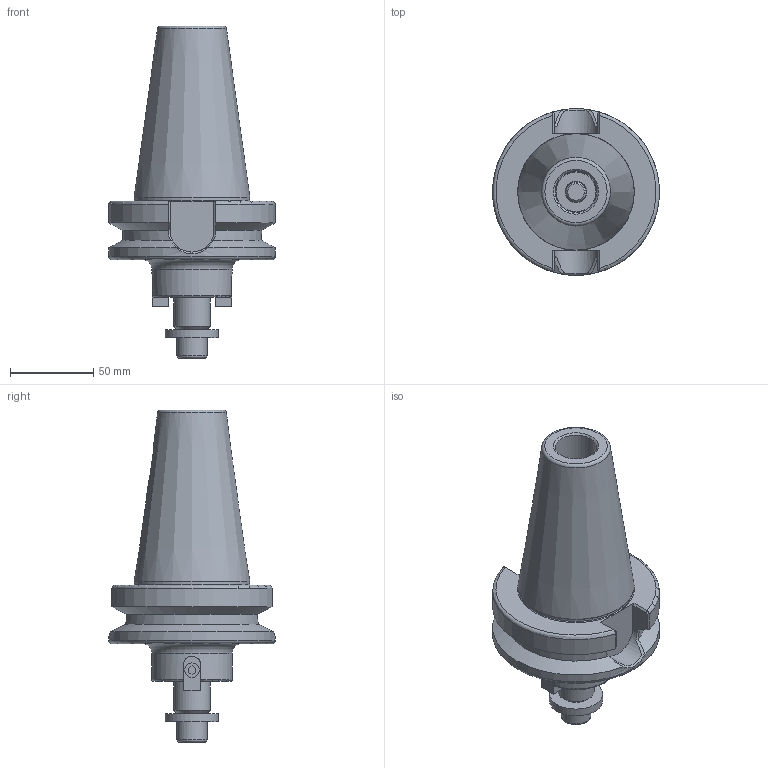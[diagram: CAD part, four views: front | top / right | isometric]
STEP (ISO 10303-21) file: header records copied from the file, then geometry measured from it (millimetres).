
FILE_DESCRIPTION(/* description */ (''),/* implementation_level */ '2;1');
FILE_NAME(/* name */ 'Z:\Проектный отдел\Алена\Оправка фрезерная (патрон) BT50-FMB27-60\BT50-FMB27-60.stp',/* time_stamp */ '2024-01-26T14:48:17+03:00',/* author */ ('User'),/* organization */ (''),/* preprocessor_version */ 'ST-DEVELOPER v18',/* originating_system */ 'Autodesk Inventor 2020',/* authorisation */ '');
FILE_SCHEMA (('AUTOMOTIVE_DESIGN { 1 0 10303 214 3 1 1 }'));
Length unit declared in the file: millimetre
Products named in the file (4): BT50-FMB27-60; BT50-FMB27-60_1; шайба; ANSI B18.3.1M - M12x1,75 x 45, BSHCSM
Assembly tree (3 placements, depth 2):
  BT50-FMB27-60
    BT50-FMB27-60_1
    шайба
    ANSI B18.3.1M - M12x1,75 x 45, BSHCSM
Bounding box: 100 x 100 x 199 mm (x, y, z)
Volume: 490968.3 mm3; surface area: 66977.4 mm2
Topology: 3 solids, 3 shells, 138 faces, 376 edges, 254 vertices
Faces by surface type: plane 70, cylinder 23, bspline 22, cone 12, torus 11
Full cylindrical faces by diameter (mm): 8.8 x2, 12 x1, 12.5 x1, 13 x1, 18 x1, 22 x1, 24 x1, 25 x1, 31.9 x1, 48.3 x1, 69 x1, 100 x1
Entity records: 5463 total; most frequent: CARTESIAN_POINT 1918, ORIENTED_EDGE 750, DIRECTION 625, EDGE_CURVE 375, VERTEX_POINT 254, AXIS2_PLACEMENT_3D 229, LINE 167, VECTOR 167
